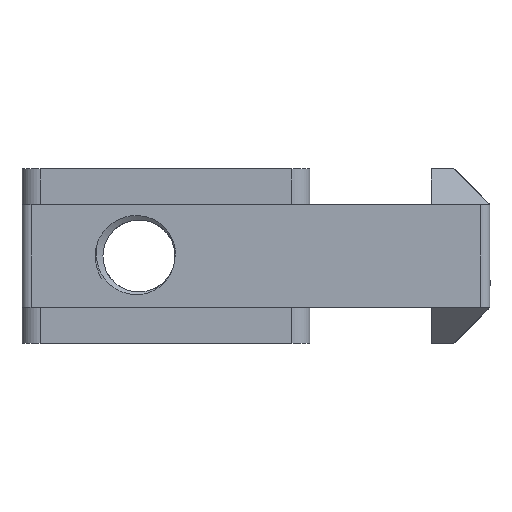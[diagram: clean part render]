
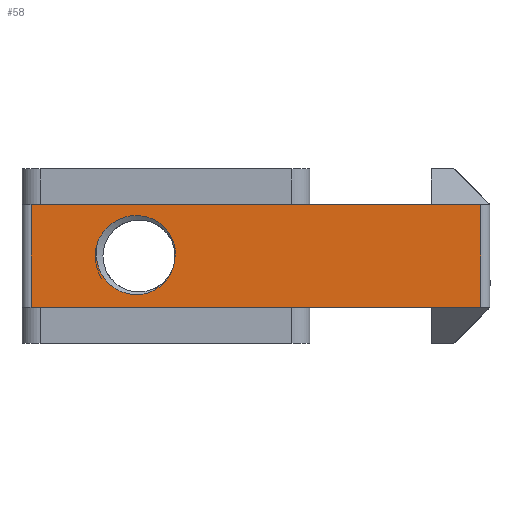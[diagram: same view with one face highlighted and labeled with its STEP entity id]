
A CAD part, left-side view. The second image highlights one B-rep face of the part: STEP entity #58.
In plain terms, the highlighted planar face has unit normal (-1, 0, 0).
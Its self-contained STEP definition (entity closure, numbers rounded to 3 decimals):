
#58 = ADVANCED_FACE ( 'NONE', ( #3028, #3211 ), #3584, .F. ) ;
#60 = CARTESIAN_POINT ( 'NONE',  ( 0., 17.506, -0.15 ) ) ;
#172 = VECTOR ( 'NONE', #1560, 1000. ) ;
#186 = EDGE_CURVE ( 'NONE', #1240, #2689, #2312, .T. ) ;
#265 = CARTESIAN_POINT ( 'NONE',  ( 0., 25.5, -2.85 ) ) ;
#266 = LINE ( 'NONE', #3568, #1082 ) ;
#273 = CARTESIAN_POINT ( 'NONE',  ( 0., 20.51, 2.083 ) ) ;
#290 = CARTESIAN_POINT ( 'NONE',  ( 0., 18.954, -2.036 ) ) ;
#371 = CARTESIAN_POINT ( 'NONE',  ( 0., 18.576, 1.978 ) ) ;
#386 = CARTESIAN_POINT ( 'NONE',  ( 0., 21.593, -1.015 ) ) ;
#498 = CARTESIAN_POINT ( 'NONE',  ( 0., 0.5, 2.85 ) ) ;
#514 = EDGE_CURVE ( 'NONE', #775, #607, #1295, .T. ) ;
#562 = EDGE_CURVE ( 'NONE', #1503, #1995, #2999, .T. ) ;
#567 = CARTESIAN_POINT ( 'NONE',  ( 0., 17.845, -1.124 ) ) ;
#607 = VERTEX_POINT ( 'NONE', #2460 ) ;
#639 = EDGE_CURVE ( 'NONE', #607, #2703, #2493, .T. ) ;
#668 = CARTESIAN_POINT ( 'NONE',  ( 0., 20.259, 2.168 ) ) ;
#683 = CARTESIAN_POINT ( 'NONE',  ( 0., 19.211, -2.108 ) ) ;
#761 = CARTESIAN_POINT ( 'NONE',  ( 0., 18.24, 1.765 ) ) ;
#775 = VERTEX_POINT ( 'NONE', #567 ) ;
#777 = CARTESIAN_POINT ( 'NONE',  ( 0., 21.8, -0.521 ) ) ;
#811 = EDGE_CURVE ( 'NONE', #2703, #775, #2484, .T. ) ;
#948 = CARTESIAN_POINT ( 'NONE',  ( 0., 25.5, 2.85 ) ) ;
#961 = CARTESIAN_POINT ( 'NONE',  ( 0., 21.792, 0.794 ) ) ;
#975 = CARTESIAN_POINT ( 'NONE',  ( 0., 17.845, -1.124 ) ) ;
#1056 = CARTESIAN_POINT ( 'NONE',  ( 0., 20.128, 2.2 ) ) ;
#1071 = CARTESIAN_POINT ( 'NONE',  ( 0., 19.343, -2.132 ) ) ;
#1082 = VECTOR ( 'NONE', #3209, 1000. ) ;
#1151 = CARTESIAN_POINT ( 'NONE',  ( 0., 18.041, 1.578 ) ) ;
#1168 = CARTESIAN_POINT ( 'NONE',  ( 0., 21.858, -0.263 ) ) ;
#1175 = ORIENTED_EDGE ( 'NONE', *, *, #639, .F. ) ;
#1176 = DIRECTION ( 'NONE',  ( 0., 0., -1. ) ) ;
#1240 = VERTEX_POINT ( 'NONE', #265 ) ;
#1266 = ORIENTED_EDGE ( 'NONE', *, *, #2369, .T. ) ;
#1295 = CIRCLE ( 'NONE', #2071, 2. ) ;
#1342 = CARTESIAN_POINT ( 'NONE',  ( 0., 21.688, 1.041 ) ) ;
#1355 = CARTESIAN_POINT ( 'NONE',  ( 0., 17.913, -1.24 ) ) ;
#1440 = CARTESIAN_POINT ( 'NONE',  ( 0., 19.865, 2.24 ) ) ;
#1454 = CARTESIAN_POINT ( 'NONE',  ( 0., 19.607, -2.153 ) ) ;
#1462 = EDGE_CURVE ( 'NONE', #1503, #1240, #3006, .T. ) ;
#1491 = ORIENTED_EDGE ( 'NONE', *, *, #811, .F. ) ;
#1503 = VERTEX_POINT ( 'NONE', #948 ) ;
#1536 = CARTESIAN_POINT ( 'NONE',  ( 0., 17.73, 1.149 ) ) ;
#1551 = CARTESIAN_POINT ( 'NONE',  ( 0., 21.891, 0.272 ) ) ;
#1559 = DIRECTION ( 'NONE',  ( -1., 0., 0. ) ) ;
#1560 = DIRECTION ( 'NONE',  ( 0., -1., 0. ) ) ;
#1675 = VECTOR ( 'NONE', #1913, 1000. ) ;
#1738 = CARTESIAN_POINT ( 'NONE',  ( 0., 21.546, 1.268 ) ) ;
#1753 = CARTESIAN_POINT ( 'NONE',  ( 0., 17.992, -1.349 ) ) ;
#1836 = CARTESIAN_POINT ( 'NONE',  ( 0., 19.732, 2.249 ) ) ;
#1851 = CARTESIAN_POINT ( 'NONE',  ( 0., 19.739, -2.152 ) ) ;
#1913 = DIRECTION ( 'NONE',  ( 0., 0., -1. ) ) ;
#1924 = CARTESIAN_POINT ( 'NONE',  ( 0., 17.613, 0.902 ) ) ;
#1940 = CARTESIAN_POINT ( 'NONE',  ( 0., 21.864, 0.535 ) ) ;
#1947 = CARTESIAN_POINT ( 'NONE',  ( 0., 19.5, 0. ) ) ;
#1948 = CARTESIAN_POINT ( 'NONE',  ( 0., 0., -2.85 ) ) ;
#1995 = VERTEX_POINT ( 'NONE', #498 ) ;
#2071 = AXIS2_PLACEMENT_3D ( 'NONE', #1947, #1559, #1176 ) ;
#2116 = CARTESIAN_POINT ( 'NONE',  ( 0., 21.28, 1.568 ) ) ;
#2127 = CARTESIAN_POINT ( 'NONE',  ( 0., 18.169, -1.548 ) ) ;
#2203 = CARTESIAN_POINT ( 'NONE',  ( 0., 19.467, 2.243 ) ) ;
#2218 = CARTESIAN_POINT ( 'NONE',  ( 0., 20.138, -2.109 ) ) ;
#2265 = DIRECTION ( 'NONE',  ( 0., -1., 0. ) ) ;
#2273 = CARTESIAN_POINT ( 'NONE',  ( 0., 25.5, 2.85 ) ) ;
#2288 = CARTESIAN_POINT ( 'NONE',  ( 0., 17.514, 0.516 ) ) ;
#2312 = LINE ( 'NONE', #1948, #172 ) ;
#2369 = EDGE_CURVE ( 'NONE', #2689, #1995, #266, .T. ) ;
#2460 = CARTESIAN_POINT ( 'NONE',  ( 0., 17.506, -0.15 ) ) ;
#2462 = ORIENTED_EDGE ( 'NONE', *, *, #562, .F. ) ;
#2479 = CARTESIAN_POINT ( 'NONE',  ( 0., 21.184, 1.659 ) ) ;
#2484 = B_SPLINE_CURVE_WITH_KNOTS ( 'NONE', 3,
 ( #2672, #1940, #1551, #1168, #777, #386, #3682, #3316, #2949, #2586, #2218, #1851, #1454, #1071, #683, #290, #3592, #3233, #2859, #2495, #2127, #1753, #1355, #975 ),
 .UNSPECIFIED., .F., .F.,
 ( 4, 2, 2, 2, 2, 2, 2, 2, 2, 2, 2, 4 ),
 ( 0., 0.001, 0.002, 0.002, 0.003, 0.004, 0.004, 0.005, 0.005, 0.006, 0.006, 0.006 ),
 .UNSPECIFIED. ) ;
#2490 = DIRECTION ( 'NONE',  ( 0., 0., -1. ) ) ;
#2493 = B_SPLINE_CURVE_WITH_KNOTS ( 'NONE', 3,
 ( #60, #3388, #3019, #2657, #2288, #1924, #1536, #1151, #761, #371, #3667, #3303, #2933, #2572, #2203, #1836, #1440, #1056, #668, #273, #3576, #3218, #2844, #2479, #2116, #1738, #1342, #961 ),
 .UNSPECIFIED., .F., .F.,
 ( 4, 2, 2, 2, 2, 2, 2, 2, 2, 2, 2, 2, 2, 4 ),
 ( 0., 0., 0.001, 0.002, 0.002, 0.003, 0.003, 0.004, 0.004, 0.004, 0.005, 0.005, 0.006, 0.006 ),
 .UNSPECIFIED. ) ;
#2495 = CARTESIAN_POINT ( 'NONE',  ( 0., 18.267, -1.638 ) ) ;
#2502 = ORIENTED_EDGE ( 'NONE', *, *, #186, .T. ) ;
#2572 = CARTESIAN_POINT ( 'NONE',  ( 0., 19.332, 2.228 ) ) ;
#2586 = CARTESIAN_POINT ( 'NONE',  ( 0., 20.393, -2.031 ) ) ;
#2634 = CARTESIAN_POINT ( 'NONE',  ( 0., 0., 2.85 ) ) ;
#2657 = CARTESIAN_POINT ( 'NONE',  ( 0., 17.493, 0.382 ) ) ;
#2672 = CARTESIAN_POINT ( 'NONE',  ( 0., 21.792, 0.794 ) ) ;
#2689 = VERTEX_POINT ( 'NONE', #3540 ) ;
#2703 = VERTEX_POINT ( 'NONE', #3177 ) ;
#2836 = AXIS2_PLACEMENT_3D ( 'NONE', #3226, #2852, #2490 ) ;
#2844 = CARTESIAN_POINT ( 'NONE',  ( 0., 20.977, 1.826 ) ) ;
#2852 = DIRECTION ( 'NONE',  ( 1., 0., 0. ) ) ;
#2857 = ORIENTED_EDGE ( 'NONE', *, *, #514, .F. ) ;
#2859 = CARTESIAN_POINT ( 'NONE',  ( 0., 18.478, -1.799 ) ) ;
#2933 = CARTESIAN_POINT ( 'NONE',  ( 0., 19.072, 2.175 ) ) ;
#2949 = CARTESIAN_POINT ( 'NONE',  ( 0., 20.872, -1.79 ) ) ;
#2999 = LINE ( 'NONE', #2634, #3083 ) ;
#3006 = LINE ( 'NONE', #2273, #1675 ) ;
#3019 = CARTESIAN_POINT ( 'NONE',  ( 0., 17.479, 0.116 ) ) ;
#3028 = FACE_OUTER_BOUND ( 'NONE', #3506, .T. ) ;
#3083 = VECTOR ( 'NONE', #2265, 1000. ) ;
#3177 = CARTESIAN_POINT ( 'NONE',  ( 0., 21.792, 0.794 ) ) ;
#3209 = DIRECTION ( 'NONE',  ( 0., 0., 1. ) ) ;
#3211 = FACE_BOUND ( 'NONE', #3408, .T. ) ;
#3218 = CARTESIAN_POINT ( 'NONE',  ( 0., 20.865, 1.901 ) ) ;
#3226 = CARTESIAN_POINT ( 'NONE',  ( 0., 0., 2.85 ) ) ;
#3233 = CARTESIAN_POINT ( 'NONE',  ( 0., 18.593, -1.871 ) ) ;
#3234 = ORIENTED_EDGE ( 'NONE', *, *, #1462, .T. ) ;
#3303 = CARTESIAN_POINT ( 'NONE',  ( 0., 18.944, 2.138 ) ) ;
#3316 = CARTESIAN_POINT ( 'NONE',  ( 0., 21.085, -1.63 ) ) ;
#3388 = CARTESIAN_POINT ( 'NONE',  ( 0., 17.485, -0.017 ) ) ;
#3408 = EDGE_LOOP ( 'NONE', ( #1175, #2857, #1491 ) ) ;
#3506 = EDGE_LOOP ( 'NONE', ( #2462, #3234, #2502, #1266 ) ) ;
#3540 = CARTESIAN_POINT ( 'NONE',  ( 0., 0.5, -2.85 ) ) ;
#3568 = CARTESIAN_POINT ( 'NONE',  ( 0., 0.5, 2.85 ) ) ;
#3576 = CARTESIAN_POINT ( 'NONE',  ( 0., 20.632, 2.029 ) ) ;
#3584 = PLANE ( 'NONE',  #2836 ) ;
#3592 = CARTESIAN_POINT ( 'NONE',  ( 0., 18.83, -1.989 ) ) ;
#3667 = CARTESIAN_POINT ( 'NONE',  ( 0., 18.696, 2.04 ) ) ;
#3682 = CARTESIAN_POINT ( 'NONE',  ( 0., 21.449, -1.238 ) ) ;
